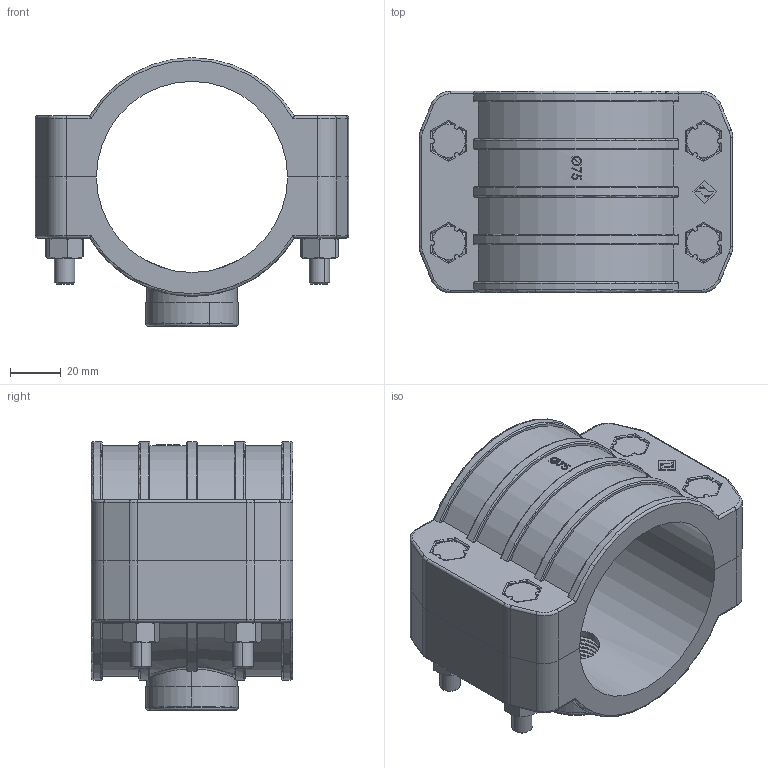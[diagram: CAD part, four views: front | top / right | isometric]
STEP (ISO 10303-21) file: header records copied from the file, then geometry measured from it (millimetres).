
FILE_DESCRIPTION (( 'STEP AP214' ), '1' );
FILE_NAME ('158918059 - Staffa 75 - 1-2''''.STEP', '2021-11-22T15:56:11', ( '' ), ( '' ), 'SwSTEP 2.0', 'SolidWorks 2021', '' );
FILE_SCHEMA (( 'AUTOMOTIVE_DESIGN' ));
Length unit declared in the file: millimetre
Products named in the file (1): 158918059 - Staffa 75 - 1-2''''
Bounding box: 123 x 79 x 105.4 mm (x, y, z)
Volume: 301797 mm3; surface area: 85581.2 mm2
Topology: 11 solids, 11 shells, 720 faces, 1781 edges, 1116 vertices
Faces by surface type: plane 296, cylinder 172, cone 126, bspline 72, torus 54
Entity records: 61041 total; most frequent: CARTESIAN_POINT 36659, ORIENTED_EDGE 3562, DIRECTION 3108, EDGE_CURVE 1781, AXIS2_PLACEMENT_3D 1127, VERTEX_POINT 1116, LINE 854, VECTOR 854
